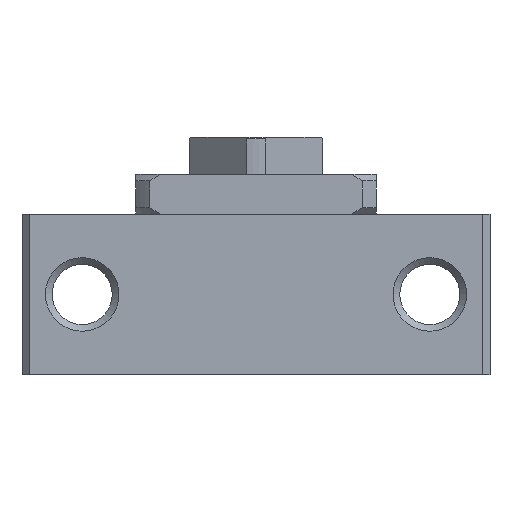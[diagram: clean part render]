
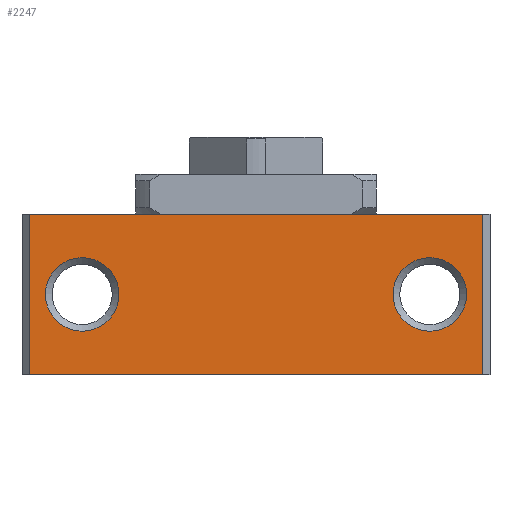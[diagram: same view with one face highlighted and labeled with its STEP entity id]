
A CAD part, front view. The second image highlights one B-rep face of the part: STEP entity #2247.
In plain terms, the highlighted planar face has unit normal (0, -1, 0).
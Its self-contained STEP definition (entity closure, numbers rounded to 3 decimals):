
#135=LINE('',#3391,#309);
#165=LINE('',#3470,#339);
#166=LINE('',#3476,#340);
#167=LINE('',#3478,#341);
#309=VECTOR('',#2717,1000.);
#339=VECTOR('',#2775,1000.);
#340=VECTOR('',#2782,1000.);
#341=VECTOR('',#2783,1000.);
#470=PLANE('',#2446);
#626=ORIENTED_EDGE('',*,*,#1240,.F.);
#627=ORIENTED_EDGE('',*,*,#1241,.F.);
#628=ORIENTED_EDGE('',*,*,#1242,.F.);
#629=ORIENTED_EDGE('',*,*,#1239,.F.);
#630=ORIENTED_EDGE('',*,*,#1202,.T.);
#631=ORIENTED_EDGE('',*,*,#1243,.T.);
#1202=EDGE_CURVE('',#1510,#1509,#135,.T.);
#1239=EDGE_CURVE('',#1510,#1544,#165,.T.);
#1240=EDGE_CURVE('',#1545,#1545,#1718,.T.);
#1241=EDGE_CURVE('',#1546,#1546,#1719,.T.);
#1242=EDGE_CURVE('',#1544,#1547,#166,.T.);
#1243=EDGE_CURVE('',#1509,#1547,#167,.T.);
#1509=VERTEX_POINT('',#3390);
#1510=VERTEX_POINT('',#3392);
#1544=VERTEX_POINT('',#3469);
#1545=VERTEX_POINT('',#3473);
#1546=VERTEX_POINT('',#3475);
#1547=VERTEX_POINT('',#3477);
#1718=CIRCLE('',#2447,5.5);
#1719=CIRCLE('',#2448,5.5);
#1816=EDGE_LOOP('',(#626));
#1817=EDGE_LOOP('',(#627));
#1818=EDGE_LOOP('',(#628,#629,#630,#631));
#2022=FACE_BOUND('',#1816,.T.);
#2023=FACE_BOUND('',#1817,.T.);
#2024=FACE_BOUND('',#1818,.T.);
#2247=ADVANCED_FACE('',(#2022,#2023,#2024),#470,.T.);
#2446=AXIS2_PLACEMENT_3D('',#3471,#2776,#2777);
#2447=AXIS2_PLACEMENT_3D('',#3472,#2778,#2779);
#2448=AXIS2_PLACEMENT_3D('',#3474,#2780,#2781);
#2717=DIRECTION('',(1.,0.,0.));
#2775=DIRECTION('',(0.,0.,1.));
#2776=DIRECTION('',(0.,-1.,0.));
#2777=DIRECTION('',(0.,0.,-1.));
#2778=DIRECTION('',(0.,-1.,0.));
#2779=DIRECTION('',(0.,0.,-1.));
#2780=DIRECTION('',(0.,-1.,0.));
#2781=DIRECTION('',(0.,0.,-1.));
#2782=DIRECTION('',(1.,0.,0.));
#2783=DIRECTION('',(0.,0.,1.));
#3390=CARTESIAN_POINT('',(33.92,-25.,-24.));
#3391=CARTESIAN_POINT('',(-33.92,-25.,-24.));
#3392=CARTESIAN_POINT('',(-33.92,-25.,-24.));
#3469=CARTESIAN_POINT('',(-33.92,-25.,0.));
#3470=CARTESIAN_POINT('',(-33.92,-25.,-24.));
#3471=CARTESIAN_POINT('',(-33.92,-25.,-24.));
#3472=CARTESIAN_POINT('',(26.,-25.,-12.));
#3473=CARTESIAN_POINT('',(26.,-25.,-17.5));
#3474=CARTESIAN_POINT('',(-26.,-25.,-12.));
#3475=CARTESIAN_POINT('',(-26.,-25.,-17.5));
#3476=CARTESIAN_POINT('',(-33.92,-25.,0.));
#3477=CARTESIAN_POINT('',(33.92,-25.,0.));
#3478=CARTESIAN_POINT('',(33.92,-25.,-24.));
